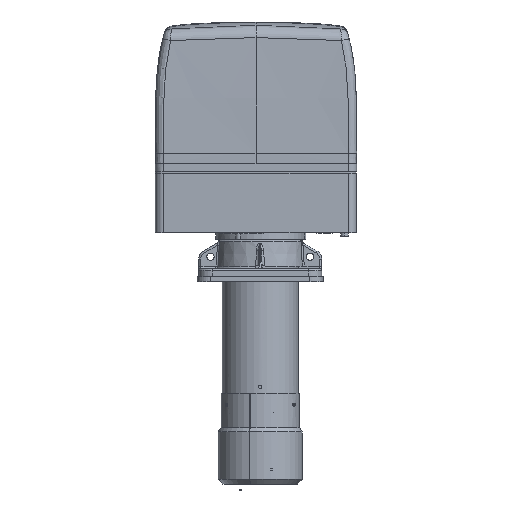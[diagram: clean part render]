
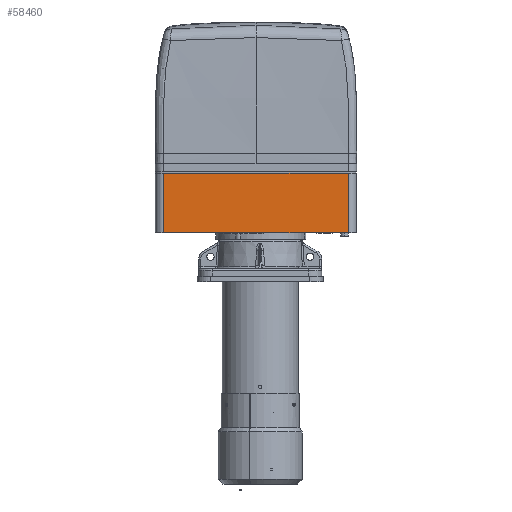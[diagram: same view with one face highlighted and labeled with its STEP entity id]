
A CAD part, front view. The second image highlights one B-rep face of the part: STEP entity #58460.
In plain terms, the highlighted planar face has unit normal (0, -1, 0).
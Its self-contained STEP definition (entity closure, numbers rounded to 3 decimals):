
#1770 = DIRECTION ( 'NONE',  ( 0., 1., 0. ) ) ;
#7704 = CARTESIAN_POINT ( 'NONE',  ( -3.667, -202.561, 298.296 ) ) ;
#8936 = CARTESIAN_POINT ( 'NONE',  ( 274.333, -202.561, 387.796 ) ) ;
#9130 = VERTEX_POINT ( 'NONE', #22110 ) ;
#10509 = ORIENTED_EDGE ( 'NONE', *, *, #16029, .T. ) ;
#16029 = EDGE_CURVE ( 'NONE', #9130, #68474, #46428, .T. ) ;
#22110 = CARTESIAN_POINT ( 'NONE',  ( -3.667, -202.561, 387.796 ) ) ;
#26190 = VECTOR ( 'NONE', #33517, 1000. ) ;
#26716 = DIRECTION ( 'NONE',  ( 0., 0., -1. ) ) ;
#27525 = CARTESIAN_POINT ( 'NONE',  ( 274.333, -202.561, 300.796 ) ) ;
#30126 = EDGE_CURVE ( 'NONE', #68474, #68429, #70539, .T. ) ;
#33517 = DIRECTION ( 'NONE',  ( 0., 0., -1. ) ) ;
#36154 = LINE ( 'NONE', #76865, #38116 ) ;
#38116 = VECTOR ( 'NONE', #39017, 1000. ) ;
#39017 = DIRECTION ( 'NONE',  ( 1., 0., 0. ) ) ;
#39069 = VERTEX_POINT ( 'NONE', #8936 ) ;
#39962 = AXIS2_PLACEMENT_3D ( 'NONE', #51965, #1770, #58187 ) ;
#45174 = PLANE ( 'NONE',  #39962 ) ;
#46428 = LINE ( 'NONE', #64896, #66801 ) ;
#48891 = ORIENTED_EDGE ( 'NONE', *, *, #30126, .T. ) ;
#49816 = ORIENTED_EDGE ( 'NONE', *, *, #69194, .F. ) ;
#50941 = EDGE_LOOP ( 'NONE', ( #79367, #10509, #48891, #49816 ) ) ;
#51965 = CARTESIAN_POINT ( 'NONE',  ( -3.667, -202.561, 300.796 ) ) ;
#57393 = LINE ( 'NONE', #27525, #26190 ) ;
#58187 = DIRECTION ( 'NONE',  ( -1., 0., 0. ) ) ;
#58460 = ADVANCED_FACE ( 'NONE', ( #75218 ), #45174, .F. ) ;
#59442 = EDGE_CURVE ( 'NONE', #9130, #39069, #36154, .T. ) ;
#62289 = CARTESIAN_POINT ( 'NONE',  ( -3.667, -202.561, 298.296 ) ) ;
#64896 = CARTESIAN_POINT ( 'NONE',  ( -3.667, -202.561, 300.796 ) ) ;
#66801 = VECTOR ( 'NONE', #26716, 1000. ) ;
#68429 = VERTEX_POINT ( 'NONE', #80282 ) ;
#68474 = VERTEX_POINT ( 'NONE', #62289 ) ;
#69194 = EDGE_CURVE ( 'NONE', #39069, #68429, #57393, .T. ) ;
#70539 = LINE ( 'NONE', #7704, #75424 ) ;
#70666 = DIRECTION ( 'NONE',  ( 1., 0., 0. ) ) ;
#75218 = FACE_OUTER_BOUND ( 'NONE', #50941, .T. ) ;
#75424 = VECTOR ( 'NONE', #70666, 1000. ) ;
#76865 = CARTESIAN_POINT ( 'NONE',  ( -3.667, -202.561, 387.796 ) ) ;
#79367 = ORIENTED_EDGE ( 'NONE', *, *, #59442, .F. ) ;
#80282 = CARTESIAN_POINT ( 'NONE',  ( 274.333, -202.561, 298.296 ) ) ;
